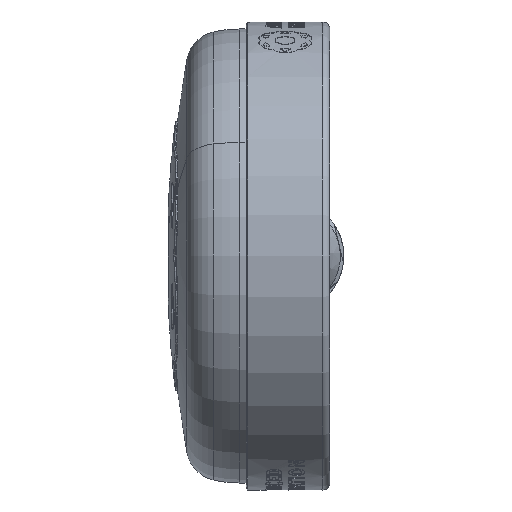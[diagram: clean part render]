
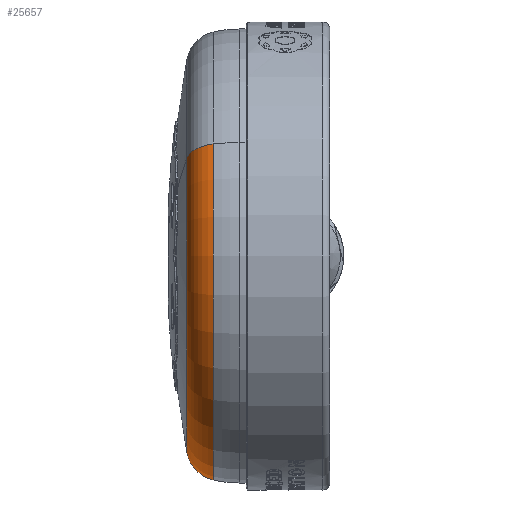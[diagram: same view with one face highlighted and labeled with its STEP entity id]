
A CAD part, left-side view. The second image highlights one B-rep face of the part: STEP entity #25657.
In plain terms, the highlighted toroidal (fillet/blend) face has major radius 27.199 mm and minor radius 5 mm.
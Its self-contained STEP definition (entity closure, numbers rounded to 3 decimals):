
#1409 = CARTESIAN_POINT ( 'NONE',  ( -28.091, 0., -7.475 ) ) ;
#1787 = VERTEX_POINT ( 'NONE', #19664 ) ;
#5448 = AXIS2_PLACEMENT_3D ( 'NONE', #16528, #36610, #19388 ) ;
#6521 = DIRECTION ( 'NONE',  ( 0., 0., 1. ) ) ;
#9159 = EDGE_CURVE ( 'NONE', #35437, #1787, #26671, .T. ) ;
#11652 = FACE_OUTER_BOUND ( 'NONE', #29034, .T. ) ;
#12707 = CARTESIAN_POINT ( 'NONE',  ( 0., 0., -2.555 ) ) ;
#12796 = CARTESIAN_POINT ( 'NONE',  ( -27.199, 0., -2.555 ) ) ;
#12934 = DIRECTION ( 'NONE',  ( 0., -1., 0. ) ) ;
#13446 = AXIS2_PLACEMENT_3D ( 'NONE', #12707, #18356, #15622 ) ;
#14528 = ORIENTED_EDGE ( 'NONE', *, *, #24092, .F. ) ;
#15622 = DIRECTION ( 'NONE',  ( 1., 0., 0. ) ) ;
#15694 = DIRECTION ( 'NONE',  ( -1., 0., 0. ) ) ;
#15828 = ORIENTED_EDGE ( 'NONE', *, *, #9159, .T. ) ;
#16528 = CARTESIAN_POINT ( 'NONE',  ( 0., 0., -3.716 ) ) ;
#16792 = ORIENTED_EDGE ( 'NONE', *, *, #22795, .T. ) ;
#17543 = CARTESIAN_POINT ( 'NONE',  ( 32.062, 0., -3.716 ) ) ;
#18356 = DIRECTION ( 'NONE',  ( 0., 0., 1. ) ) ;
#19388 = DIRECTION ( 'NONE',  ( 1., 0., 0. ) ) ;
#19664 = CARTESIAN_POINT ( 'NONE',  ( 28.091, 0., -7.475 ) ) ;
#20983 = AXIS2_PLACEMENT_3D ( 'NONE', #23715, #6521, #26632 ) ;
#22795 = EDGE_CURVE ( 'NONE', #1787, #34905, #35536, .T. ) ;
#23353 = CIRCLE ( 'NONE', #5448, 32.062 ) ;
#23715 = CARTESIAN_POINT ( 'NONE',  ( 0., 0., -7.475 ) ) ;
#24092 = EDGE_CURVE ( 'NONE', #30245, #34905, #23353, .T. ) ;
#25625 = AXIS2_PLACEMENT_3D ( 'NONE', #12796, #32887, #15694 ) ;
#25657 = ADVANCED_FACE ( 'NONE', ( #11652 ), #33662, .T. ) ;
#26632 = DIRECTION ( 'NONE',  ( 1., 0., 0. ) ) ;
#26671 = CIRCLE ( 'NONE', #20983, 28.091 ) ;
#28418 = CIRCLE ( 'NONE', #25625, 5. ) ;
#29034 = EDGE_LOOP ( 'NONE', ( #35202, #15828, #16792, #14528 ) ) ;
#29548 = AXIS2_PLACEMENT_3D ( 'NONE', #30182, #12934, #33043 ) ;
#30182 = CARTESIAN_POINT ( 'NONE',  ( 27.199, 0., -2.555 ) ) ;
#30232 = CARTESIAN_POINT ( 'NONE',  ( -32.062, 0., -3.716 ) ) ;
#30245 = VERTEX_POINT ( 'NONE', #30232 ) ;
#30988 = EDGE_CURVE ( 'NONE', #35437, #30245, #28418, .T. ) ;
#32887 = DIRECTION ( 'NONE',  ( 0., 1., 0. ) ) ;
#33043 = DIRECTION ( 'NONE',  ( 0., 0., -1. ) ) ;
#33662 = TOROIDAL_SURFACE ( 'NONE', #13446, 27.199, 5. ) ;
#34905 = VERTEX_POINT ( 'NONE', #17543 ) ;
#35202 = ORIENTED_EDGE ( 'NONE', *, *, #30988, .F. ) ;
#35437 = VERTEX_POINT ( 'NONE', #1409 ) ;
#35536 = CIRCLE ( 'NONE', #29548, 5. ) ;
#36610 = DIRECTION ( 'NONE',  ( 0., 0., 1. ) ) ;
